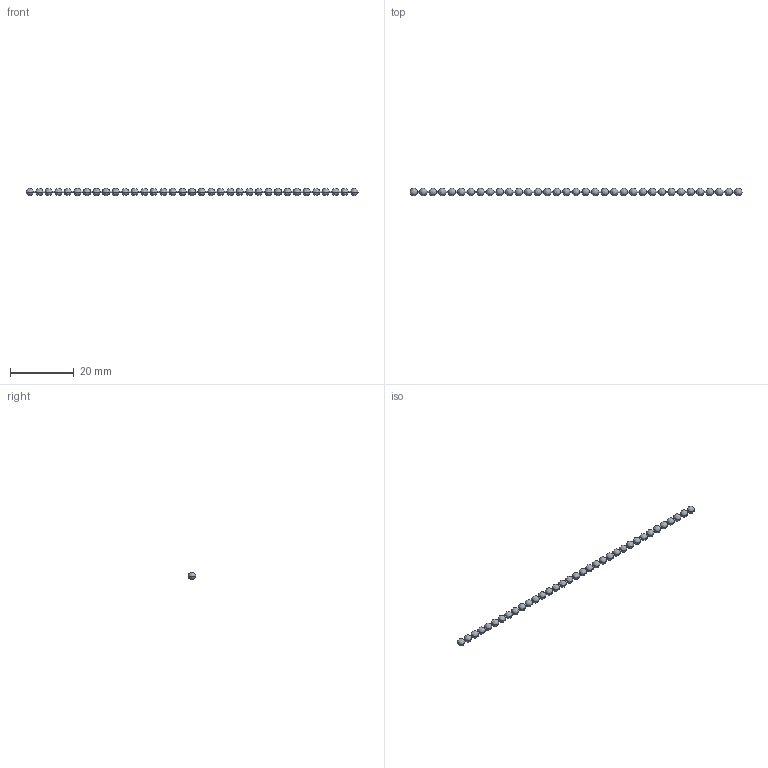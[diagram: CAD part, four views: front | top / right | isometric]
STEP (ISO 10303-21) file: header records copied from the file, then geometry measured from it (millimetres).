
FILE_DESCRIPTION (( 'STEP AP203' ), '1' );
FILE_NAME ('EB-930-1.STEP', '2013-08-21T08:11:38', ( 'SDS' ), ( 'SDS' ), 'SwSTEP 2.0', 'SolidWorks 2002296', '' );
FILE_SCHEMA (( 'CONFIG_CONTROL_DESIGN' ));
Length unit declared in the file: millimetre
Products named in the file (1): EB-930-1
Bounding box: 104.3 x 2.3 x 2.3 mm (x, y, z)
Volume: 227.8 mm3; surface area: 608.5 mm2
Topology: 1 solids, 1 shells, 138 faces, 562 edges, 286 vertices
Faces by surface type: bspline 70, cylinder 68
Entity records: 5701 total; most frequent: CARTESIAN_POINT 2311, ORIENTED_EDGE 844, DIRECTION 638, EDGE_CURVE 422, VERTEX_POINT 286, AXIS2_PLACEMENT_3D 285, CIRCLE 216, EDGE_LOOP 138
